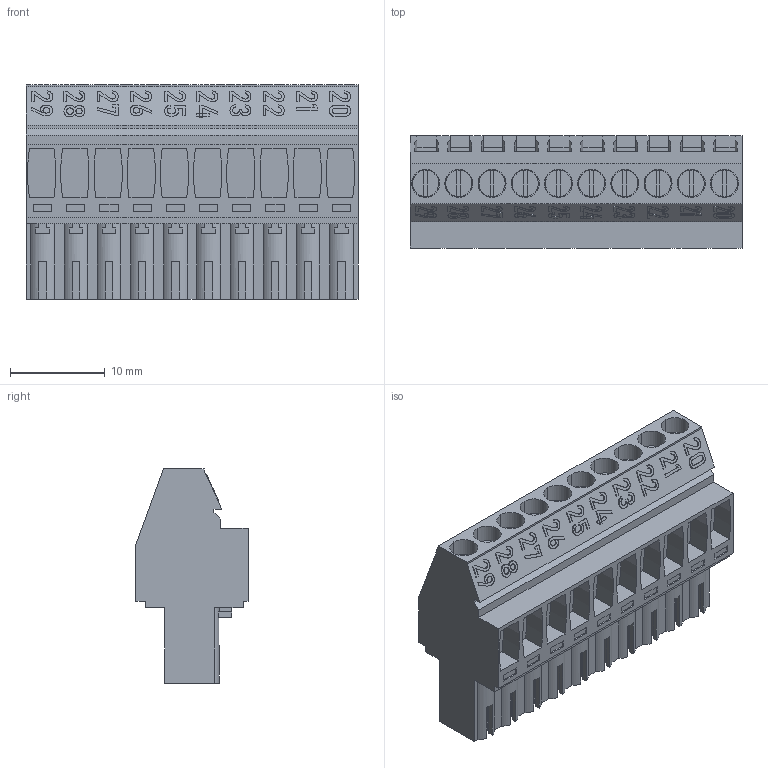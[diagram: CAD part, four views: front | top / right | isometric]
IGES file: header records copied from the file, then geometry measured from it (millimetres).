
Global section: file name: SBC_IGES_ACC_440550560_Plug-10p-180-label-29-20_2021-08-15.iges; native system: CAD Exchanger; preprocessor: CAD Exchanger 3.9.1 (cadexchanger.com); date: 20210815.164433; units: millimetre
Bounding box: 35 x 11.83 x 22.6 mm (x, y, z)
Volume: 5387.1 mm3; surface area: 4263.3 mm2
Topology: 32 solids, 32 shells, 1132 faces, 6337 edges, 14937 vertices
Faces by surface type: plane 742, extrusion 310, cylinder 80
